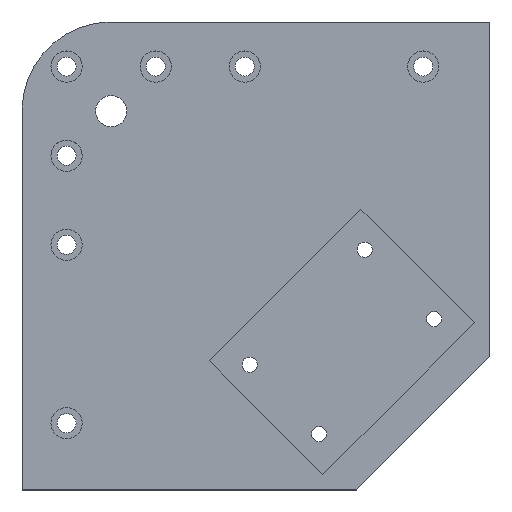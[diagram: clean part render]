
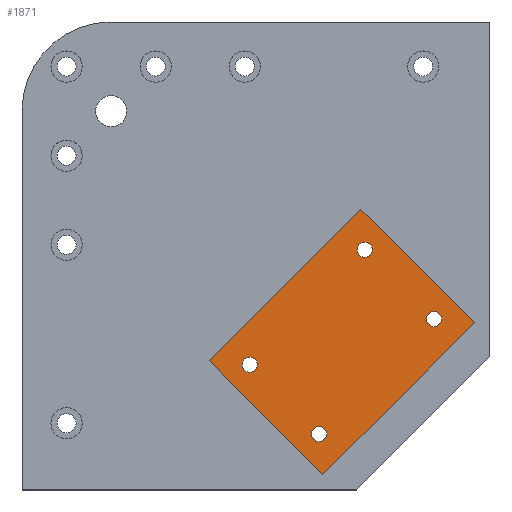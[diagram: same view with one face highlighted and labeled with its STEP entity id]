
A CAD part, top view. The second image highlights one B-rep face of the part: STEP entity #1871.
In plain terms, the highlighted planar face has unit normal (0, 0, 1).
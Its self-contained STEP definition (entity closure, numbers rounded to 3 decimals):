
#42 = EDGE_CURVE ( 'NONE', #666, #537, #671, .T. ) ;
#83 = AXIS2_PLACEMENT_3D ( 'NONE', #401, #995, #134 ) ;
#121 = ORIENTED_EDGE ( 'NONE', *, *, #925, .F. ) ;
#125 = CARTESIAN_POINT ( 'NONE',  ( -20.912, -47.112, 3.5 ) ) ;
#131 = EDGE_CURVE ( 'NONE', #594, #1893, #842, .T. ) ;
#134 = DIRECTION ( 'NONE',  ( 1., 0., 0. ) ) ;
#197 = EDGE_LOOP ( 'NONE', ( #1631, #989 ) ) ;
#199 = DIRECTION ( 'NONE',  ( 0., 0., 1. ) ) ;
#214 = CARTESIAN_POINT ( 'NONE',  ( 48.809, 2.81, 3.5 ) ) ;
#218 = DIRECTION ( 'NONE',  ( 1., 0., 0. ) ) ;
#220 = CARTESIAN_POINT ( 'NONE',  ( 28.303, -79.922, 3.5 ) ) ;
#237 = EDGE_CURVE ( 'NONE', #918, #1289, #1823, .T. ) ;
#238 = LINE ( 'NONE', #264, #1142 ) ;
#256 = DIRECTION ( 'NONE',  ( 0.707, 0.707, 0. ) ) ;
#264 = CARTESIAN_POINT ( 'NONE',  ( 47.112, 20.912, 3.5 ) ) ;
#271 = ORIENTED_EDGE ( 'NONE', *, *, #42, .F. ) ;
#337 = CIRCLE ( 'NONE', #1514, 3.4 ) ;
#345 = CARTESIAN_POINT ( 'NONE',  ( -2.81, -48.809, 3.5 ) ) ;
#361 = CARTESIAN_POINT ( 'NONE',  ( 45.409, 2.81, 3.5 ) ) ;
#401 = CARTESIAN_POINT ( 'NONE',  ( 28.303, -79.922, 3.5 ) ) ;
#410 = AXIS2_PLACEMENT_3D ( 'NONE', #473, #583, #602 ) ;
#426 = DIRECTION ( 'NONE',  ( 0., 0., 1. ) ) ;
#427 = EDGE_LOOP ( 'NONE', ( #784, #1366 ) ) ;
#473 = CARTESIAN_POINT ( 'NONE',  ( 0., 0., 3.5 ) ) ;
#490 = CARTESIAN_POINT ( 'NONE',  ( 52.209, 2.81, 3.5 ) ) ;
#494 = EDGE_CURVE ( 'NONE', #809, #1662, #1214, .T. ) ;
#500 = ORIENTED_EDGE ( 'NONE', *, *, #131, .T. ) ;
#513 = CIRCLE ( 'NONE', #919, 3.4 ) ;
#525 = CARTESIAN_POINT ( 'NONE',  ( 47.112, 20.912, 3.5 ) ) ;
#526 = EDGE_LOOP ( 'NONE', ( #1134, #1536, #1194, #500 ) ) ;
#537 = VERTEX_POINT ( 'NONE', #1502 ) ;
#550 = CARTESIAN_POINT ( 'NONE',  ( 30., -98.024, 3.5 ) ) ;
#554 = LINE ( 'NONE', #1413, #697 ) ;
#583 = DIRECTION ( 'NONE',  ( 0., 0., 1. ) ) ;
#593 = FACE_BOUND ( 'NONE', #197, .T. ) ;
#594 = VERTEX_POINT ( 'NONE', #550 ) ;
#602 = DIRECTION ( 'NONE',  ( 1., 0., 0. ) ) ;
#644 = EDGE_CURVE ( 'NONE', #1259, #594, #1262, .T. ) ;
#666 = VERTEX_POINT ( 'NONE', #1130 ) ;
#668 = ORIENTED_EDGE ( 'NONE', *, *, #791, .F. ) ;
#671 = CIRCLE ( 'NONE', #1484, 3.4 ) ;
#697 = VECTOR ( 'NONE', #1281, 1000. ) ;
#727 = AXIS2_PLACEMENT_3D ( 'NONE', #1300, #1606, #1594 ) ;
#758 = EDGE_CURVE ( 'NONE', #1295, #909, #917, .T. ) ;
#784 = ORIENTED_EDGE ( 'NONE', *, *, #1210, .F. ) ;
#791 = EDGE_CURVE ( 'NONE', #537, #666, #1542, .T. ) ;
#797 = CARTESIAN_POINT ( 'NONE',  ( -2.81, -48.809, 3.5 ) ) ;
#800 = CARTESIAN_POINT ( 'NONE',  ( -20.912, -47.112, 3.5 ) ) ;
#807 = DIRECTION ( 'NONE',  ( 1., 0., 0. ) ) ;
#809 = VERTEX_POINT ( 'NONE', #1822 ) ;
#830 = DIRECTION ( 'NONE',  ( 0., 0., 1. ) ) ;
#842 = LINE ( 'NONE', #1159, #1276 ) ;
#867 = DIRECTION ( 'NONE',  ( 1., 0., 0. ) ) ;
#909 = VERTEX_POINT ( 'NONE', #361 ) ;
#917 = CIRCLE ( 'NONE', #1639, 3.4 ) ;
#918 = VERTEX_POINT ( 'NONE', #1521 ) ;
#919 = AXIS2_PLACEMENT_3D ( 'NONE', #345, #932, #218 ) ;
#925 = EDGE_CURVE ( 'NONE', #1662, #809, #513, .T. ) ;
#932 = DIRECTION ( 'NONE',  ( 0., 0., 1. ) ) ;
#948 = CIRCLE ( 'NONE', #1365, 3.4 ) ;
#965 = EDGE_LOOP ( 'NONE', ( #668, #271 ) ) ;
#968 = CARTESIAN_POINT ( 'NONE',  ( -6.21, -48.809, 3.5 ) ) ;
#989 = ORIENTED_EDGE ( 'NONE', *, *, #1649, .F. ) ;
#995 = DIRECTION ( 'NONE',  ( 0., 0., 1. ) ) ;
#1014 = DIRECTION ( 'NONE',  ( -0.707, -0.707, 0. ) ) ;
#1031 = FACE_OUTER_BOUND ( 'NONE', #526, .T. ) ;
#1130 = CARTESIAN_POINT ( 'NONE',  ( 83.322, -28.303, 3.5 ) ) ;
#1134 = ORIENTED_EDGE ( 'NONE', *, *, #1350, .T. ) ;
#1142 = VECTOR ( 'NONE', #1014, 1000. ) ;
#1159 = CARTESIAN_POINT ( 'NONE',  ( 30., -98.024, 3.5 ) ) ;
#1174 = FACE_BOUND ( 'NONE', #1338, .T. ) ;
#1194 = ORIENTED_EDGE ( 'NONE', *, *, #644, .T. ) ;
#1210 = EDGE_CURVE ( 'NONE', #909, #1295, #337, .T. ) ;
#1214 = CIRCLE ( 'NONE', #1357, 3.4 ) ;
#1259 = VERTEX_POINT ( 'NONE', #800 ) ;
#1262 = LINE ( 'NONE', #125, #1329 ) ;
#1265 = CARTESIAN_POINT ( 'NONE',  ( 31.703, -79.922, 3.5 ) ) ;
#1276 = VECTOR ( 'NONE', #256, 1000. ) ;
#1281 = DIRECTION ( 'NONE',  ( -0.707, 0.707, 0. ) ) ;
#1289 = VERTEX_POINT ( 'NONE', #1265 ) ;
#1295 = VERTEX_POINT ( 'NONE', #490 ) ;
#1300 = CARTESIAN_POINT ( 'NONE',  ( 79.922, -28.303, 3.5 ) ) ;
#1310 = FACE_BOUND ( 'NONE', #427, .T. ) ;
#1325 = VERTEX_POINT ( 'NONE', #525 ) ;
#1329 = VECTOR ( 'NONE', #1850, 1000. ) ;
#1338 = EDGE_LOOP ( 'NONE', ( #121, #1519 ) ) ;
#1340 = FACE_BOUND ( 'NONE', #965, .T. ) ;
#1350 = EDGE_CURVE ( 'NONE', #1893, #1325, #554, .T. ) ;
#1357 = AXIS2_PLACEMENT_3D ( 'NONE', #797, #199, #1358 ) ;
#1358 = DIRECTION ( 'NONE',  ( 1., 0., 0. ) ) ;
#1361 = DIRECTION ( 'NONE',  ( 0., 0., 1. ) ) ;
#1365 = AXIS2_PLACEMENT_3D ( 'NONE', #220, #1371, #807 ) ;
#1366 = ORIENTED_EDGE ( 'NONE', *, *, #758, .F. ) ;
#1371 = DIRECTION ( 'NONE',  ( 0., 0., 1. ) ) ;
#1413 = CARTESIAN_POINT ( 'NONE',  ( 98.024, -30., 3.5 ) ) ;
#1437 = PLANE ( 'NONE',  #410 ) ;
#1470 = CARTESIAN_POINT ( 'NONE',  ( 98.024, -30., 3.5 ) ) ;
#1484 = AXIS2_PLACEMENT_3D ( 'NONE', #1533, #1361, #1497 ) ;
#1497 = DIRECTION ( 'NONE',  ( 1., 0., 0. ) ) ;
#1502 = CARTESIAN_POINT ( 'NONE',  ( 76.522, -28.303, 3.5 ) ) ;
#1514 = AXIS2_PLACEMENT_3D ( 'NONE', #214, #830, #1819 ) ;
#1519 = ORIENTED_EDGE ( 'NONE', *, *, #494, .F. ) ;
#1521 = CARTESIAN_POINT ( 'NONE',  ( 24.903, -79.922, 3.5 ) ) ;
#1533 = CARTESIAN_POINT ( 'NONE',  ( 79.922, -28.303, 3.5 ) ) ;
#1536 = ORIENTED_EDGE ( 'NONE', *, *, #1816, .T. ) ;
#1542 = CIRCLE ( 'NONE', #727, 3.4 ) ;
#1585 = CARTESIAN_POINT ( 'NONE',  ( 48.809, 2.81, 3.5 ) ) ;
#1594 = DIRECTION ( 'NONE',  ( 1., 0., 0. ) ) ;
#1606 = DIRECTION ( 'NONE',  ( 0., 0., 1. ) ) ;
#1631 = ORIENTED_EDGE ( 'NONE', *, *, #237, .F. ) ;
#1639 = AXIS2_PLACEMENT_3D ( 'NONE', #1585, #426, #867 ) ;
#1649 = EDGE_CURVE ( 'NONE', #1289, #918, #948, .T. ) ;
#1662 = VERTEX_POINT ( 'NONE', #968 ) ;
#1816 = EDGE_CURVE ( 'NONE', #1325, #1259, #238, .T. ) ;
#1819 = DIRECTION ( 'NONE',  ( 1., 0., 0. ) ) ;
#1822 = CARTESIAN_POINT ( 'NONE',  ( 0.59, -48.809, 3.5 ) ) ;
#1823 = CIRCLE ( 'NONE', #83, 3.4 ) ;
#1850 = DIRECTION ( 'NONE',  ( 0.707, -0.707, 0. ) ) ;
#1871 = ADVANCED_FACE ( 'NONE', ( #1310, #1340, #1174, #593, #1031 ), #1437, .T. ) ;
#1893 = VERTEX_POINT ( 'NONE', #1470 ) ;
